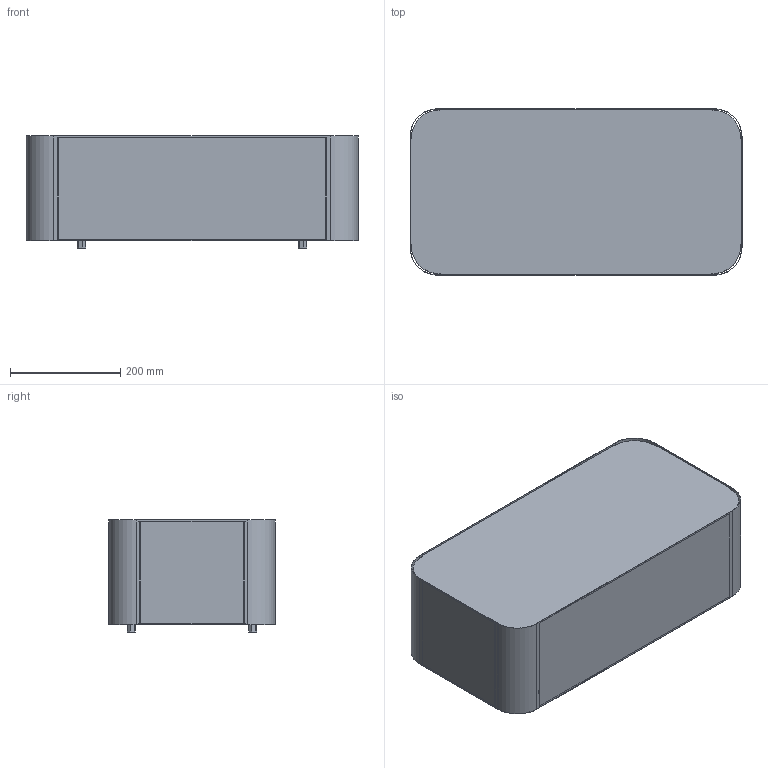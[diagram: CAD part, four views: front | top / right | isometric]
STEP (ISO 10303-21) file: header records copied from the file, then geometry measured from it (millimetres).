
FILE_DESCRIPTION(('Creo Elements/Direct Modeling STEP Export'),'2;1');
FILE_NAME('EMIL LED DIREKT 300.stp','2016-04-04T11:31:04',(''),(''),'Creo Elements/Direct Modeling STEP processor for AP214 (Solid Model)','Creo Elements/Direct Modeling 18.1A 09-Jun-2012 (C) Parametric Technology GmbH','');
FILE_SCHEMA(('AUTOMOTIVE_DESIGN { 1 0 10303 214 1 1 1 1 }'));
Length unit declared in the file: millimetre
Products named in the file (2): EMIL_LED; EMIL_LED_300
Assembly tree (1 placements, depth 2):
  EMIL_LED_300
    EMIL_LED
Bounding box: 601 x 301 x 202.8 mm (x, y, z)
Volume: 32667293.5 mm3; surface area: 831747.5 mm2
Topology: 1 solids, 1 shells, 68 faces, 192 edges, 128 vertices
Faces by surface type: plane 40, cylinder 28
Entity records: 2273 total; most frequent: CARTESIAN_POINT 390, DIRECTION 388, ORIENTED_EDGE 384, EDGE_CURVE 192, VECTOR 136, LINE 136, VERTEX_POINT 128, AXIS2_PLACEMENT_3D 126
